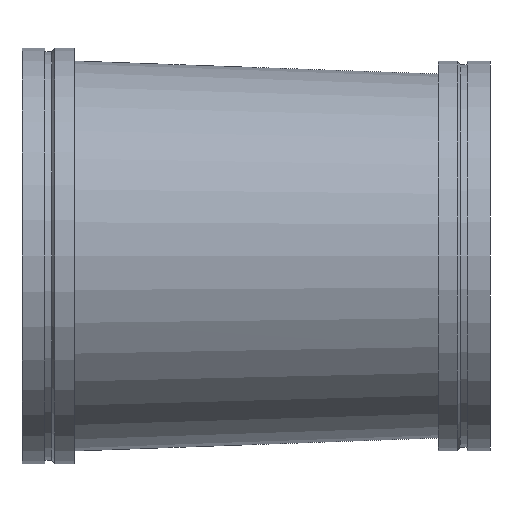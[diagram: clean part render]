
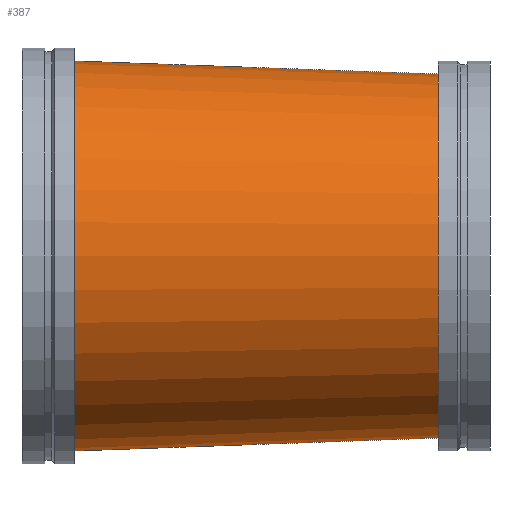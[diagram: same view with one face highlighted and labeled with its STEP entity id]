
A CAD part, front view. The second image highlights one B-rep face of the part: STEP entity #387.
In plain terms, the highlighted free-form (B-spline) face has degree [1, 2] with [2, 9] control points.
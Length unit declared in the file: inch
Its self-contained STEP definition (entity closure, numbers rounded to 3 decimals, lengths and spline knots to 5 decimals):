
#46=B_SPLINE_CURVE_WITH_KNOTS('',1,(#747,#748),.UNSPECIFIED.,.F.,.F.,(2,
2),(-1.86909,-0.00005),.UNSPECIFIED.);
#48=(
BOUNDED_SURFACE()
B_SPLINE_SURFACE(1,2,((#729,#730,#731,#732,#733,#734,#735,#736,#737),(#738,
#739,#740,#741,#742,#743,#744,#745,#746)),.UNSPECIFIED.,.F.,.T.,.F.)
B_SPLINE_SURFACE_WITH_KNOTS((2,2),(3,2,2,2,3),(-0.03567,1.90234),
(-3.14159,-1.5708,0.,1.5708,3.14159),
 .UNSPECIFIED.)
GEOMETRIC_REPRESENTATION_ITEM()
RATIONAL_B_SPLINE_SURFACE(((1.,0.707,1.,0.707,1.,
0.707,1.,0.707,1.),(1.,0.707,1.,0.707,
1.,0.707,1.,0.707,1.)))
REPRESENTATION_ITEM('')
SURFACE()
);
#98=FACE_OUTER_BOUND('',#120,.T.);
#120=EDGE_LOOP('',(#321,#322,#323,#324,#325,#326));
#129=CIRCLE('',#415,14.);
#130=CIRCLE('',#416,14.);
#153=CIRCLE('',#450,15.);
#154=CIRCLE('',#451,15.);
#166=VERTEX_POINT('',#628);
#167=VERTEX_POINT('',#629);
#190=VERTEX_POINT('',#695);
#191=VERTEX_POINT('',#696);
#203=EDGE_CURVE('',#166,#167,#129,.T.);
#204=EDGE_CURVE('',#167,#166,#130,.T.);
#235=EDGE_CURVE('',#190,#191,#153,.T.);
#236=EDGE_CURVE('',#191,#190,#154,.T.);
#243=EDGE_CURVE('',#167,#191,#46,.T.);
#321=ORIENTED_EDGE('',*,*,#203,.T.);
#322=ORIENTED_EDGE('',*,*,#243,.T.);
#323=ORIENTED_EDGE('',*,*,#236,.T.);
#324=ORIENTED_EDGE('',*,*,#235,.T.);
#325=ORIENTED_EDGE('',*,*,#243,.F.);
#326=ORIENTED_EDGE('',*,*,#204,.T.);
#387=ADVANCED_FACE('',(#98),#48,.F.);
#415=AXIS2_PLACEMENT_3D('',#630,#486,#487);
#416=AXIS2_PLACEMENT_3D('',#631,#488,#489);
#450=AXIS2_PLACEMENT_3D('',#697,#564,#565);
#451=AXIS2_PLACEMENT_3D('',#698,#566,#567);
#486=DIRECTION('center_axis',(-1.,0.,0.));
#487=DIRECTION('ref_axis',(0.,-1.,0.));
#488=DIRECTION('center_axis',(-1.,0.,0.));
#489=DIRECTION('ref_axis',(0.,-1.,0.));
#564=DIRECTION('center_axis',(1.,0.,0.));
#565=DIRECTION('ref_axis',(0.,1.,0.));
#566=DIRECTION('center_axis',(1.,0.,0.));
#567=DIRECTION('ref_axis',(0.,1.,0.));
#628=CARTESIAN_POINT('',(32.,-15.,0.));
#629=CARTESIAN_POINT('',(32.,-1.01781,13.99999));
#630=CARTESIAN_POINT('Origin',(32.,-1.,0.));
#631=CARTESIAN_POINT('Origin',(32.,-1.,0.));
#695=CARTESIAN_POINT('',(4.,15.,0.));
#696=CARTESIAN_POINT('',(4.,-0.01908,14.99999));
#697=CARTESIAN_POINT('Origin',(4.,0.,0.));
#698=CARTESIAN_POINT('Origin',(4.,0.,0.));
#729=CARTESIAN_POINT('Ctrl Pts',(3.46497,0.,
15.0191));
#730=CARTESIAN_POINT('Ctrl Pts',(2.92993,-15.,15.0191));
#731=CARTESIAN_POINT('Ctrl Pts',(2.92993,-15.,0.));
#732=CARTESIAN_POINT('Ctrl Pts',(2.92993,-15.,-15.0191));
#733=CARTESIAN_POINT('Ctrl Pts',(3.46497,0.,-15.0191));
#734=CARTESIAN_POINT('Ctrl Pts',(4.,15.,-15.0191));
#735=CARTESIAN_POINT('Ctrl Pts',(4.,15.,0.));
#736=CARTESIAN_POINT('Ctrl Pts',(4.,15.,15.0191));
#737=CARTESIAN_POINT('Ctrl Pts',(3.46497,0.,
15.0191));
#738=CARTESIAN_POINT('Ctrl Pts',(32.49809,-1.03558,13.9822));
#739=CARTESIAN_POINT('Ctrl Pts',(32.,-15.,13.9822));
#740=CARTESIAN_POINT('Ctrl Pts',(32.,-15.,0.));
#741=CARTESIAN_POINT('Ctrl Pts',(32.,-15.,-13.9822));
#742=CARTESIAN_POINT('Ctrl Pts',(32.49809,-1.03558,-13.9822));
#743=CARTESIAN_POINT('Ctrl Pts',(32.99619,12.92884,-13.9822));
#744=CARTESIAN_POINT('Ctrl Pts',(32.99619,12.92884,0.));
#745=CARTESIAN_POINT('Ctrl Pts',(32.99619,12.92884,13.9822));
#746=CARTESIAN_POINT('Ctrl Pts',(32.49809,-1.03558,13.9822));
#747=CARTESIAN_POINT('Ctrl Pts',(32.,-1.01781,13.99999));
#748=CARTESIAN_POINT('Ctrl Pts',(4.,-0.01908,14.99999));
